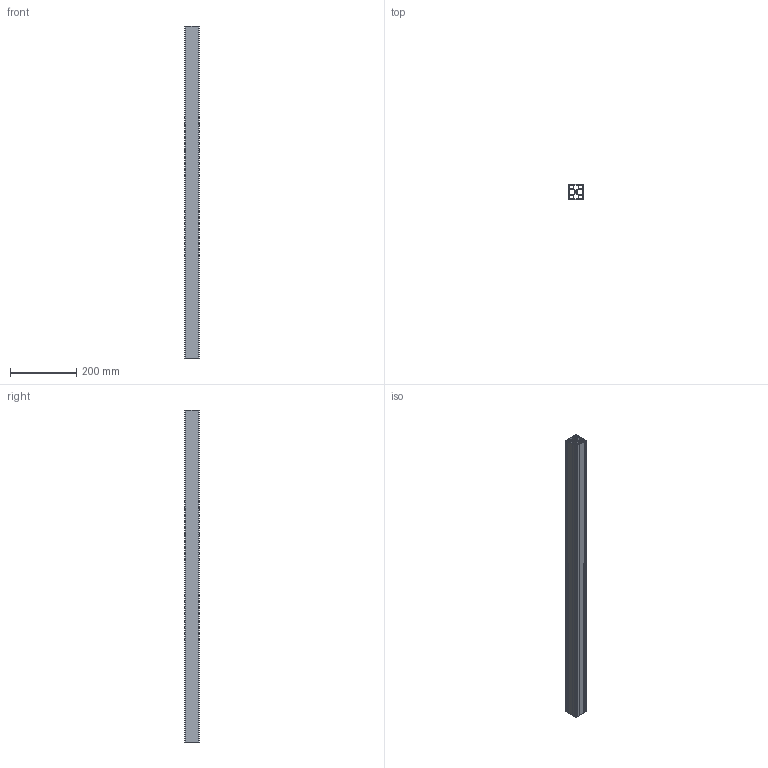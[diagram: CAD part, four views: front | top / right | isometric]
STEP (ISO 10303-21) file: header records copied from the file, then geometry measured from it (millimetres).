
FILE_DESCRIPTION (( 'STEP AP214' ), '1' );
FILE_NAME ('SA03001L.step', '2024-12-03T16:29:02', ( '' ), ( '' ), 'SwSTEP 2.0', 'SolidWorks 2023', '' );
FILE_SCHEMA (( 'AUTOMOTIVE_DESIGN' ));
Length unit declared in the file: millimetre
Products named in the file (1): SA03001L
Bounding box: 45 x 45 x 1000 mm (x, y, z)
Volume: 518508.7 mm3; surface area: 621660.6 mm2
Topology: 1 solids, 1 shells, 131 faces, 387 edges, 258 vertices
Faces by surface type: plane 110, cylinder 21
Full cylindrical faces by diameter (mm): 7.45 x1
Entity records: 4377 total; most frequent: CARTESIAN_POINT 776, ORIENTED_EDGE 772, DIRECTION 692, EDGE_CURVE 386, LINE 344, VECTOR 344, VERTEX_POINT 258, AXIS2_PLACEMENT_3D 174
